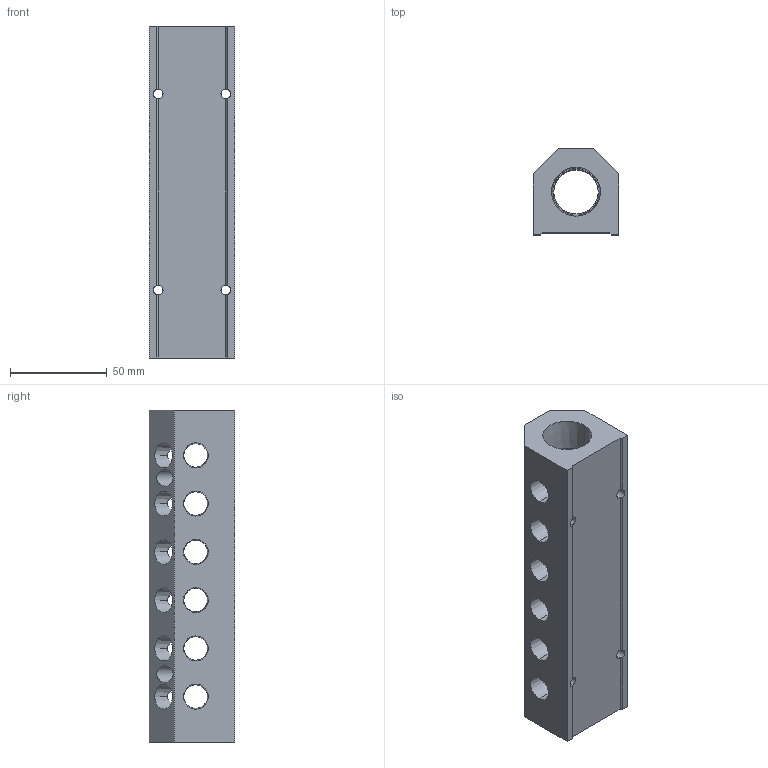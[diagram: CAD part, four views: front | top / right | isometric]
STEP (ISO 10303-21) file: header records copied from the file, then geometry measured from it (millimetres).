
FILE_DESCRIPTION (( 'STEP AP214' ), '1' );
FILE_NAME ('ALM6ABCDE-N4N12-172R.step', '2022-02-06T14:06:09', ( '' ), ( '' ), 'SwSTEP 2.0', 'SolidWorks 2020', '' );
FILE_SCHEMA (( 'AUTOMOTIVE_DESIGN' ));
Length unit declared in the file: millimetre
Products named in the file (1): ALM6ABCDE-N4N12-172R
Bounding box: 44.5 x 44.5 x 172 mm (x, y, z)
Volume: 186557.1 mm3; surface area: 51247.1 mm2
Topology: 1 solids, 1 shells, 402 faces, 1174 edges, 780 vertices
Faces by surface type: plane 241, cone 74, bspline 53, cylinder 34
Entity records: 22741 total; most frequent: CARTESIAN_POINT 9008, ORIENTED_EDGE 2348, DIRECTION 1672, EDGE_CURVE 1174, VERTEX_POINT 780, VECTOR 740, LINE 740, EDGE_LOOP 478
